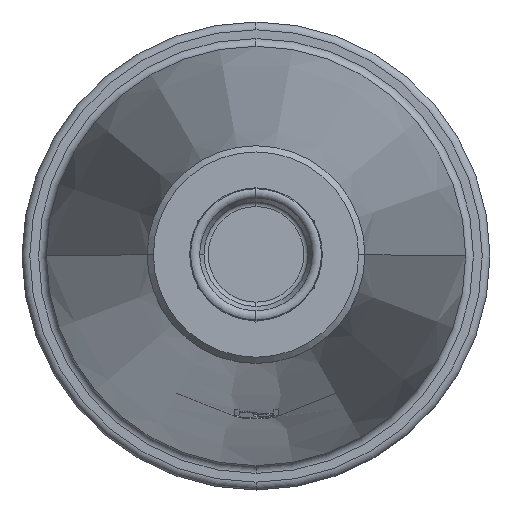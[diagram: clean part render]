
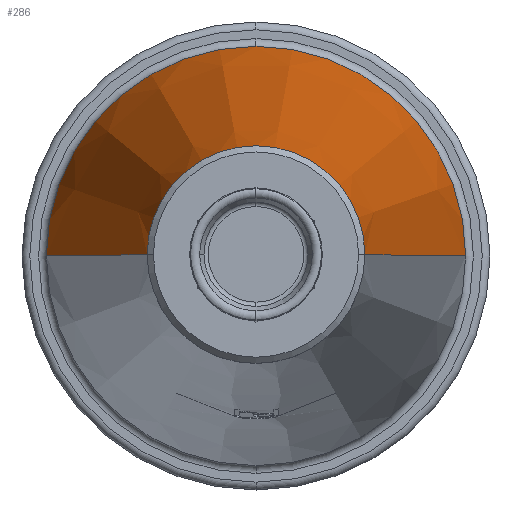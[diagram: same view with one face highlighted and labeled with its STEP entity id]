
A CAD part, top view. The second image highlights one B-rep face of the part: STEP entity #286.
In plain terms, the highlighted conical face has half-angle 7.768 degrees and reference radius 102.093 mm.
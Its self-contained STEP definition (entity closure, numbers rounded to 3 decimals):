
#286=ADVANCED_FACE('',(#613),#614,.T.);
#613=FACE_OUTER_BOUND('',#1012,.T.);
#614=CONICAL_SURFACE('',#1013,102.093,0.136);
#1012=EDGE_LOOP('',(#1677,#1678,#1679,#1680,#1681));
#1013=AXIS2_PLACEMENT_3D('',#1682,#1683,#1684);
#1677=ORIENTED_EDGE('',*,*,#2418,.T.);
#1678=ORIENTED_EDGE('',*,*,#2499,.F.);
#1679=ORIENTED_EDGE('',*,*,#2359,.F.);
#1680=ORIENTED_EDGE('',*,*,#2420,.T.);
#1681=ORIENTED_EDGE('',*,*,#2500,.T.);
#1682=CARTESIAN_POINT('',(408.211,528.029,-12.338));
#1683=DIRECTION('',(0.,0.,-1.0));
#1684=DIRECTION('',(1.0,0.,0.));
#2359=EDGE_CURVE('',#2800,#2802,#2803,.T.);
#2418=EDGE_CURVE('',#2907,#2908,#2909,.T.);
#2420=EDGE_CURVE('',#2800,#2910,#2912,.T.);
#2499=EDGE_CURVE('',#2802,#2908,#3036,.T.);
#2500=EDGE_CURVE('',#2910,#2907,#3037,.T.);
#2800=VERTEX_POINT('',#3527);
#2802=VERTEX_POINT('',#3529);
#2803=CIRCLE('',#3530,134.41);
#2907=VERTEX_POINT('',#3988);
#2908=VERTEX_POINT('',#3989);
#2909=LINE('',#3990,#3991);
#2910=VERTEX_POINT('',#3992);
#2912=LINE('',#3994,#3995);
#3036=CIRCLE('',#4479,134.41);
#3037=CIRCLE('',#4480,69.775);
#3527=CARTESIAN_POINT('',(273.801,528.029,-249.231));
#3529=CARTESIAN_POINT('',(408.211,662.439,-249.231));
#3530=AXIS2_PLACEMENT_3D('',#4864,#4865,#4866);
#3988=CARTESIAN_POINT('',(477.986,528.029,224.555));
#3989=CARTESIAN_POINT('',(542.621,528.029,-249.231));
#3990=CARTESIAN_POINT('',(510.304,528.029,-12.338));
#3991=VECTOR('',#4936,1.0);
#3992=CARTESIAN_POINT('',(338.435,528.029,224.555));
#3994=CARTESIAN_POINT('',(306.118,528.029,-12.338));
#3995=VECTOR('',#4940,1.0);
#4479=AXIS2_PLACEMENT_3D('',#5021,#5022,#5023);
#4480=AXIS2_PLACEMENT_3D('',#5024,#5025,#5026);
#4864=CARTESIAN_POINT('',(408.211,528.029,-249.231));
#4865=DIRECTION('',(0.,0.,-1.0));
#4866=DIRECTION('',(1.0,0.,0.));
#4936=DIRECTION('',(0.135,0.,-0.991));
#4940=DIRECTION('',(0.135,0.,0.991));
#5021=CARTESIAN_POINT('',(408.211,528.029,-249.231));
#5022=DIRECTION('',(0.,0.,-1.0));
#5023=DIRECTION('',(1.0,0.,0.));
#5024=CARTESIAN_POINT('',(408.211,528.029,224.555));
#5025=DIRECTION('',(0.,0.,-1.0));
#5026=DIRECTION('',(1.0,0.,0.));
